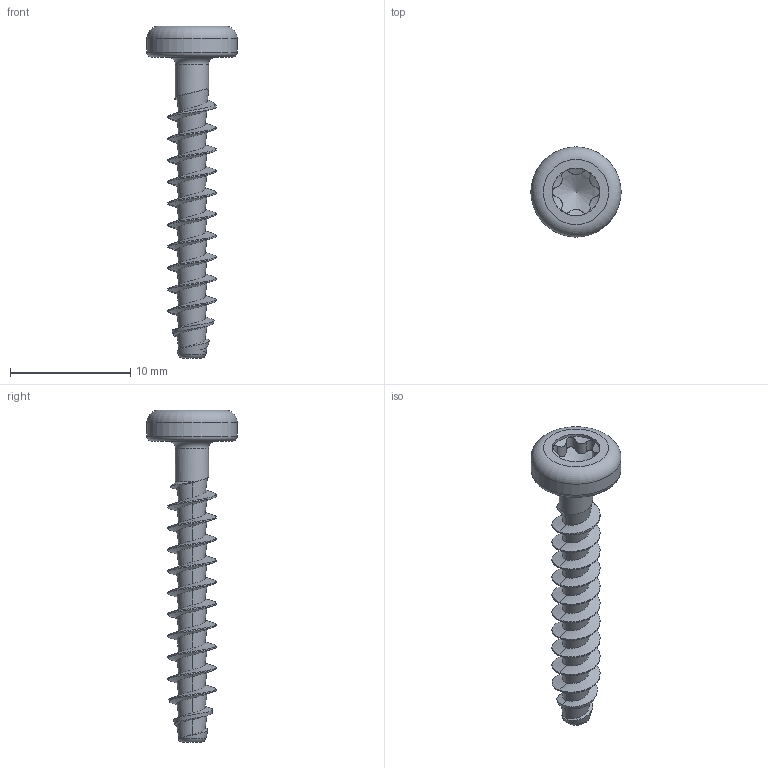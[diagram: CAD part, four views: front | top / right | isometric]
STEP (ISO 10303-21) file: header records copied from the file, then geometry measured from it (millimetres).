
FILE_DESCRIPTION(/* description */ (''),/* implementation_level */ '2;1');
FILE_NAME(/* name */ 'KN1039-STS-40x25-T20.step',/* time_stamp */ '2017-10-17T13:39:47+02:00',/* author */ (''),/* organization */ (''),/* preprocessor_version */ 'ST-DEVELOPER v16',/* originating_system */ 'SIEMENS PLM Software NX 10.0',/* authorisation */ '');
FILE_SCHEMA (('AUTOMOTIVE_DESIGN { 1 0 10303 214 3 1 1 1 }'));
Length unit declared in the file: millimetre
Products named in the file (1): KN1039-STS-40x25-T20
Bounding box: 7.5 x 7.5 x 27.6 mm (x, y, z)
Volume: 233.6 mm3; surface area: 493.5 mm2
Topology: 1 solids, 1 shells, 66 faces, 162 edges, 99 vertices
Faces by surface type: bspline 39, cylinder 16, cone 4, torus 4, plane 3
Full cylindrical faces by diameter (mm): 2.76 x1, 3.97 x1, 7.5 x1
Entity records: 4714 total; most frequent: CARTESIAN_POINT 3499, ORIENTED_EDGE 294, EDGE_CURVE 147, DIRECTION 130, VERTEX_POINT 94, B_SPLINE_CURVE_WITH_KNOTS 86, EDGE_LOOP 76, ADVANCED_FACE 66
